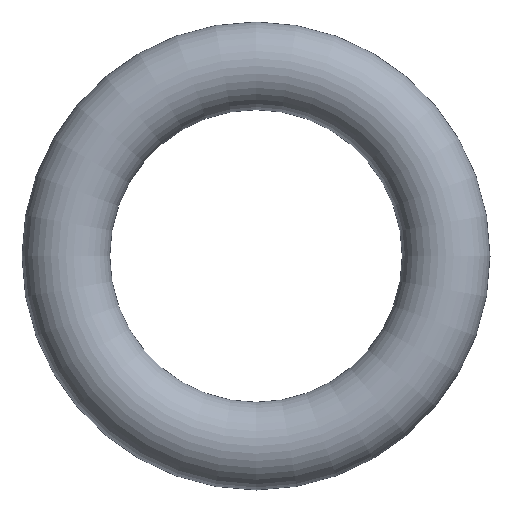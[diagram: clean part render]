
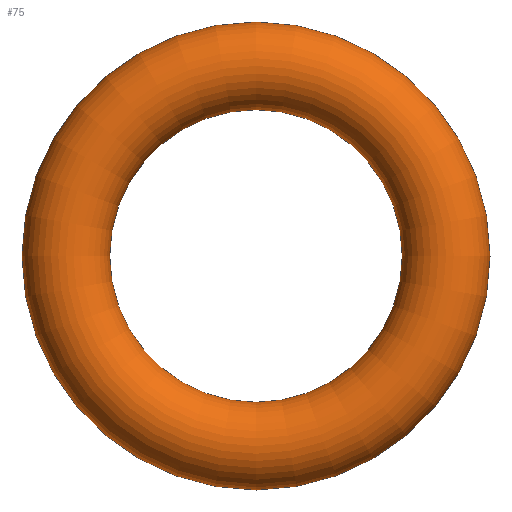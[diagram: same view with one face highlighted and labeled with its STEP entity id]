
A CAD part, front view. The second image highlights one B-rep face of the part: STEP entity #75.
In plain terms, the highlighted toroidal (fillet/blend) face has major radius 6.5 mm and minor radius 1.5 mm.
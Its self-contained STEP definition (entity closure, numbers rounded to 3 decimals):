
#75 = ADVANCED_FACE( '', ( #77 ), #78, .T. );
#77 = FACE_BOUND( '', #79, .T. );
#78 = TOROIDAL_SURFACE( '', #80, 6.5, 1.5 );
#79 = VERTEX_LOOP( '', #81 );
#80 = AXIS2_PLACEMENT_3D( '', #82, #83, #84 );
#81 = VERTEX_POINT( '', #85 );
#82 = CARTESIAN_POINT( '', ( 0., 0., 0. ) );
#83 = DIRECTION( '', ( 0., -1., 0. ) );
#84 = DIRECTION( '', ( 0., 0., -1. ) );
#85 = CARTESIAN_POINT( '', ( 0., 0., -8. ) );
